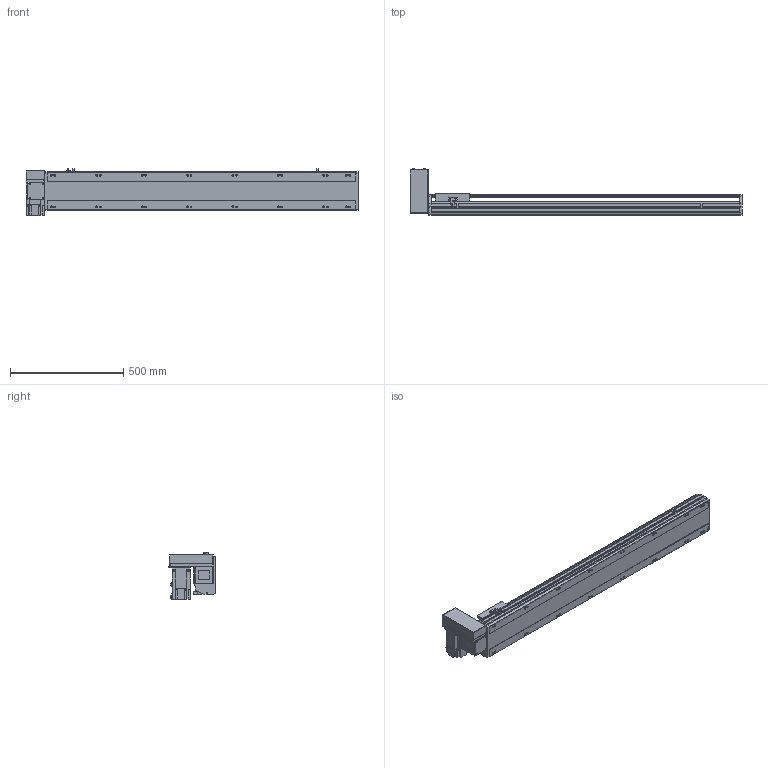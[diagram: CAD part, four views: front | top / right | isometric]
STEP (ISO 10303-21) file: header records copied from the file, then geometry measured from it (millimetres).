
FILE_DESCRIPTION( ( 'STEP AP214' ), '1' );
FILE_NAME( 'x:/temp/worker_5/temp/exporttempdir_3988_120_NNtRo/format_0/PBS170-P40-S1100-RU-T75-C1-N(0).stp', '2022-06-08T05:57:09', ( 'License CC BY-ND 4.0' ), ( 'CADENAS' ), ' ', 'PARTsolutions', ' ' );
FILE_SCHEMA( ( 'AUTOMOTIVE_DESIGN { 1 0 10303 214 1 1 1 1 }' ) );
Length unit declared in the file: millimetre
Products named in the file (7): PBS170-P40-S1100-RU-T75-C1-N(0); _PBS170-S1100()_body; _PBS170T-RU_motors; _T75-p1; _PBS170_sliser; _PBS170_plant; _PBS170_sensor
Assembly tree (8 placements, depth 2):
  PBS170-P40-S1100-RU-T75-C1-N(0)
    _PBS170-S1100()_body
    _PBS170T-RU_motors
    _T75-p1
    _PBS170_sliser
    _PBS170_plant
    _PBS170_sensor  x3
Bounding box: 1463 x 206 x 205.3 mm (x, y, z)
Volume: 11701873.6 mm3; surface area: 1526560.8 mm2
Topology: 8 solids, 8 shells, 1082 faces, 2875 edges, 1874 vertices
Faces by surface type: plane 687, cylinder 339, cone 46, sphere 8, torus 2
Full cylindrical faces by diameter (mm): 3.242 x4, 4 x2, 4.4 x4, 4.5 x6, 4.917 x4, 6 x9, 6.647 x24, 7 x2, 7.5 x4, 8 x8, 8.5 x16, 10 x4, 10.5 x16, 11 x2, 30 x2, 40 x1, 70 x1
Entity records: 39740 total; most frequent: CARTESIAN_POINT 6221, DIRECTION 5300, ORIENTED_EDGE 5028, EDGE_CURVE 2514, AXIS2_PLACEMENT_3D 1837, VERTEX_POINT 1730, LINE 1626, VECTOR 1626
